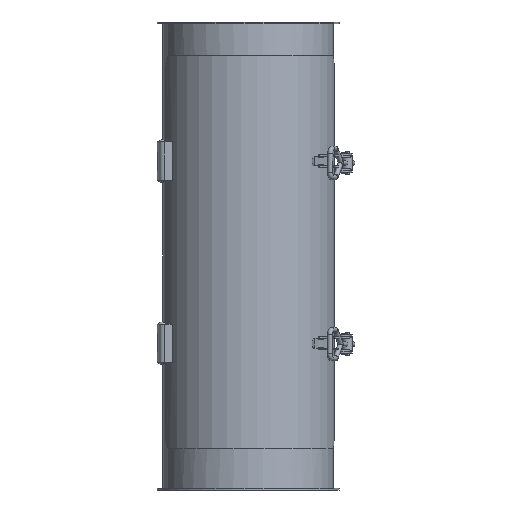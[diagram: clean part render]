
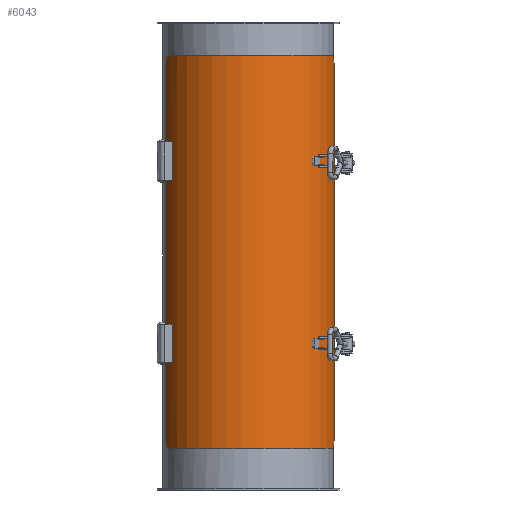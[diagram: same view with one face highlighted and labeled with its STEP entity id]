
A CAD part, front view. The second image highlights one B-rep face of the part: STEP entity #6043.
In plain terms, the highlighted cylindrical face has radius 91 mm (diameter 182 mm), a partial arc.
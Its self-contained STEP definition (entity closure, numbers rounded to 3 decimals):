
#5438=CARTESIAN_POINT('',(17.085,2.525,170.81));
#5439=VERTEX_POINT('',#5438);
#5446=CARTESIAN_POINT('',(25.591,12.525,165.522));
#5447=VERTEX_POINT('',#5446);
#5448=CARTESIAN_POINT('',(17.085,2.525,170.81));
#5449=CARTESIAN_POINT('',(17.085,3.78,170.81));
#5450=CARTESIAN_POINT('',(17.306,5.12,170.69));
#5451=CARTESIAN_POINT('',(18.197,7.584,170.193));
#5452=CARTESIAN_POINT('',(18.867,8.708,169.813));
#5453=CARTESIAN_POINT('',(20.398,10.486,168.909));
#5454=CARTESIAN_POINT('',(21.362,11.256,168.323));
#5455=CARTESIAN_POINT('',(23.444,12.275,166.992));
#5456=CARTESIAN_POINT('',(24.56,12.525,166.245));
#5457=CARTESIAN_POINT('',(25.591,12.525,165.522));
#5458=B_SPLINE_CURVE_WITH_KNOTS('',3,(#5448,#5449,#5450,#5451,#5452,#5453,#5454,#5455,#5456,#5457),.UNSPECIFIED.,.F.,.U.,(4,2,2,2,4),(3.025,3.402,3.779,4.157,4.534),.UNSPECIFIED.);
#5459=EDGE_CURVE('',#5439,#5447,#5458,.T.);
#5562=CARTESIAN_POINT('',(-16.634,12.525,0.551));
#5563=VERTEX_POINT('',#5562);
#5564=CARTESIAN_POINT('',(-26.634,12.525,91.0));
#5565=DIRECTION('',(0.0,-1.0,0.0));
#5566=DIRECTION('',(0.0,0.0,-1.0));
#5567=AXIS2_PLACEMENT_3D('',#5564,#5565,#5566);
#5568=CIRCLE('',#5567,91.0);
#5569=EDGE_CURVE('',#5563,#5447,#5568,.T.);
#5588=CARTESIAN_POINT('',(-26.634,2.525,0.0));
#5589=VERTEX_POINT('',#5588);
#5590=CARTESIAN_POINT('',(-16.634,12.525,0.551));
#5591=CARTESIAN_POINT('',(-17.885,12.525,0.413));
#5592=CARTESIAN_POINT('',(-19.223,12.275,0.294));
#5593=CARTESIAN_POINT('',(-21.688,11.256,0.126));
#5594=CARTESIAN_POINT('',(-22.815,10.486,0.076));
#5595=CARTESIAN_POINT('',(-24.592,8.708,0.019));
#5596=CARTESIAN_POINT('',(-25.362,7.584,0.007));
#5597=CARTESIAN_POINT('',(-26.383,5.12,-0.001));
#5598=CARTESIAN_POINT('',(-26.634,3.78,0.));
#5599=CARTESIAN_POINT('',(-26.634,2.525,0.));
#5600=B_SPLINE_CURVE_WITH_KNOTS('',3,(#5590,#5591,#5592,#5593,#5594,#5595,#5596,#5597,#5598,#5599),.UNSPECIFIED.,.F.,.U.,(4,2,2,2,4),(4.542,4.92,5.297,5.674,6.051),.UNSPECIFIED.);
#5601=EDGE_CURVE('',#5563,#5589,#5600,.T.);
#5618=CARTESIAN_POINT('',(25.591,-397.475,165.522));
#5619=VERTEX_POINT('',#5618);
#5626=CARTESIAN_POINT('',(17.085,-387.475,170.81));
#5627=VERTEX_POINT('',#5626);
#5628=CARTESIAN_POINT('',(25.591,-397.475,165.522));
#5629=CARTESIAN_POINT('',(24.56,-397.475,166.245));
#5630=CARTESIAN_POINT('',(23.444,-397.226,166.992));
#5631=CARTESIAN_POINT('',(21.362,-396.206,168.323));
#5632=CARTESIAN_POINT('',(20.398,-395.436,168.909));
#5633=CARTESIAN_POINT('',(18.867,-393.659,169.813));
#5634=CARTESIAN_POINT('',(18.197,-392.534,170.193));
#5635=CARTESIAN_POINT('',(17.306,-390.07,170.69));
#5636=CARTESIAN_POINT('',(17.085,-388.731,170.81));
#5637=CARTESIAN_POINT('',(17.085,-387.475,170.81));
#5638=B_SPLINE_CURVE_WITH_KNOTS('',3,(#5628,#5629,#5630,#5631,#5632,#5633,#5634,#5635,#5636,#5637),.UNSPECIFIED.,.F.,.U.,(4,2,2,2,4),(1.517,1.894,2.272,2.649,3.025),.UNSPECIFIED.);
#5639=EDGE_CURVE('',#5619,#5627,#5638,.T.);
#5657=CARTESIAN_POINT('',(-16.634,-397.475,0.551));
#5658=VERTEX_POINT('',#5657);
#5665=CARTESIAN_POINT('',(-26.634,-397.475,91.0));
#5666=DIRECTION('',(0.0,1.,0.0));
#5667=DIRECTION('',(0.48,0.0,0.877));
#5668=AXIS2_PLACEMENT_3D('',#5665,#5666,#5667);
#5669=CIRCLE('',#5668,91.0);
#5670=EDGE_CURVE('',#5619,#5658,#5669,.T.);
#5681=CARTESIAN_POINT('',(-26.634,-387.475,0.0));
#5682=VERTEX_POINT('',#5681);
#5689=CARTESIAN_POINT('',(-26.634,-387.475,0.));
#5690=CARTESIAN_POINT('',(-26.634,-388.731,0.));
#5691=CARTESIAN_POINT('',(-26.383,-390.07,-0.001));
#5692=CARTESIAN_POINT('',(-25.362,-392.534,0.007));
#5693=CARTESIAN_POINT('',(-24.592,-393.659,0.019));
#5694=CARTESIAN_POINT('',(-22.815,-395.436,0.076));
#5695=CARTESIAN_POINT('',(-21.688,-396.206,0.126));
#5696=CARTESIAN_POINT('',(-19.223,-397.226,0.294));
#5697=CARTESIAN_POINT('',(-17.885,-397.475,0.413));
#5698=CARTESIAN_POINT('',(-16.634,-397.475,0.551));
#5699=B_SPLINE_CURVE_WITH_KNOTS('',3,(#5689,#5690,#5691,#5692,#5693,#5694,#5695,#5696,#5697,#5698),.UNSPECIFIED.,.F.,.U.,(4,2,2,2,4),(6.051,6.428,6.804,7.182,7.56),.UNSPECIFIED.);
#5700=EDGE_CURVE('',#5682,#5658,#5699,.T.);
#5711=CARTESIAN_POINT('',(29.814,-117.475,162.377));
#5712=VERTEX_POINT('',#5711);
#5721=CARTESIAN_POINT('',(29.814,-77.475,162.377));
#5722=VERTEX_POINT('',#5721);
#5723=CARTESIAN_POINT('',(29.814,-77.475,162.377));
#5724=DIRECTION('',(0.0,-1.0,0.0));
#5725=VECTOR('',#5724,40.0);
#5726=LINE('',#5723,#5725);
#5727=EDGE_CURVE('',#5722,#5712,#5726,.T.);
#5782=CARTESIAN_POINT('',(25.591,-117.475,165.522));
#5783=VERTEX_POINT('',#5782);
#5791=CARTESIAN_POINT('',(25.591,-77.475,165.522));
#5792=VERTEX_POINT('',#5791);
#5799=CARTESIAN_POINT('',(25.591,-117.475,165.522));
#5800=DIRECTION('',(0.0,1.0,0.0));
#5801=VECTOR('',#5800,40.0);
#5802=LINE('',#5799,#5801);
#5803=EDGE_CURVE('',#5783,#5792,#5802,.T.);
#5816=CARTESIAN_POINT('',(-26.634,-117.475,91.0));
#5817=DIRECTION('',(0.0,-1.,0.0));
#5818=DIRECTION('',(0.48,0.0,0.877));
#5819=AXIS2_PLACEMENT_3D('',#5816,#5817,#5818);
#5820=CIRCLE('',#5819,91.0);
#5821=EDGE_CURVE('',#5712,#5783,#5820,.T.);
#5831=CARTESIAN_POINT('',(-26.634,-77.475,91.0));
#5832=DIRECTION('',(0.0,1.,0.0));
#5833=DIRECTION('',(0.48,0.0,0.877));
#5834=AXIS2_PLACEMENT_3D('',#5831,#5832,#5833);
#5835=CIRCLE('',#5834,91.0);
#5836=EDGE_CURVE('',#5792,#5722,#5835,.T.);
#5849=CARTESIAN_POINT('',(29.814,-267.475,162.377));
#5850=VERTEX_POINT('',#5849);
#5867=CARTESIAN_POINT('',(29.814,-307.475,162.377));
#5868=VERTEX_POINT('',#5867);
#5875=CARTESIAN_POINT('',(29.814,-267.475,162.377));
#5876=DIRECTION('',(0.0,-1.0,0.0));
#5877=VECTOR('',#5876,40.0);
#5878=LINE('',#5875,#5877);
#5879=EDGE_CURVE('',#5850,#5868,#5878,.T.);
#5920=CARTESIAN_POINT('',(25.591,-267.475,165.522));
#5921=VERTEX_POINT('',#5920);
#5928=CARTESIAN_POINT('',(25.591,-307.475,165.522));
#5929=VERTEX_POINT('',#5928);
#5930=CARTESIAN_POINT('',(25.591,-307.475,165.522));
#5931=DIRECTION('',(0.0,1.0,0.0));
#5932=VECTOR('',#5931,40.0);
#5933=LINE('',#5930,#5932);
#5934=EDGE_CURVE('',#5929,#5921,#5933,.T.);
#5952=CARTESIAN_POINT('',(-26.634,-267.475,91.0));
#5953=DIRECTION('',(0.0,1.,0.0));
#5954=DIRECTION('',(0.48,0.0,0.877));
#5955=AXIS2_PLACEMENT_3D('',#5952,#5953,#5954);
#5956=CIRCLE('',#5955,91.0);
#5957=EDGE_CURVE('',#5921,#5850,#5956,.T.);
#5969=CARTESIAN_POINT('',(-26.634,-307.475,91.0));
#5970=DIRECTION('',(0.0,-1.,0.0));
#5971=DIRECTION('',(0.48,0.0,0.877));
#5972=AXIS2_PLACEMENT_3D('',#5969,#5970,#5971);
#5973=CIRCLE('',#5972,91.0);
#5974=EDGE_CURVE('',#5868,#5929,#5973,.T.);
#5988=CARTESIAN_POINT('',(-26.634,-387.475,0.0));
#5989=DIRECTION('',(0.0,1.0,0.0));
#5990=VECTOR('',#5989,390.0);
#5991=LINE('',#5988,#5990);
#5992=EDGE_CURVE('',#5682,#5589,#5991,.T.);
#6007=CARTESIAN_POINT('',(17.085,2.525,170.81));
#6008=DIRECTION('',(0.0,-1.0,0.0));
#6009=VECTOR('',#6008,390.);
#6010=LINE('',#6007,#6009);
#6011=EDGE_CURVE('',#5439,#5627,#6010,.T.);
#6016=CARTESIAN_POINT('',(-26.634,-397.475,91.0));
#6017=DIRECTION('',(0.,-1.0,0.0));
#6018=DIRECTION('',(0.48,0.0,0.877));
#6019=AXIS2_PLACEMENT_3D('',#6016,#6017,#6018);
#6020=CYLINDRICAL_SURFACE('',#6019,91.);
#6021=ORIENTED_EDGE('',*,*,#5459,.F.);
#6022=ORIENTED_EDGE('',*,*,#6011,.T.);
#6023=ORIENTED_EDGE('',*,*,#5639,.F.);
#6024=ORIENTED_EDGE('',*,*,#5670,.T.);
#6025=ORIENTED_EDGE('',*,*,#5700,.F.);
#6026=ORIENTED_EDGE('',*,*,#5992,.T.);
#6027=ORIENTED_EDGE('',*,*,#5601,.F.);
#6028=ORIENTED_EDGE('',*,*,#5569,.T.);
#6029=EDGE_LOOP('',(#6021,#6022,#6023,#6024,#6025,#6026,#6027,#6028));
#6030=FACE_OUTER_BOUND('',#6029,.T.);
#6031=ORIENTED_EDGE('',*,*,#5803,.T.);
#6032=ORIENTED_EDGE('',*,*,#5836,.T.);
#6033=ORIENTED_EDGE('',*,*,#5727,.T.);
#6034=ORIENTED_EDGE('',*,*,#5821,.T.);
#6035=EDGE_LOOP('',(#6031,#6032,#6033,#6034));
#6036=FACE_BOUND('',#6035,.T.);
#6037=ORIENTED_EDGE('',*,*,#5934,.T.);
#6038=ORIENTED_EDGE('',*,*,#5957,.T.);
#6039=ORIENTED_EDGE('',*,*,#5879,.T.);
#6040=ORIENTED_EDGE('',*,*,#5974,.T.);
#6041=EDGE_LOOP('',(#6037,#6038,#6039,#6040));
#6042=FACE_BOUND('',#6041,.T.);
#6043=ADVANCED_FACE('',(#6030,#6036,#6042),#6020,.T.);
